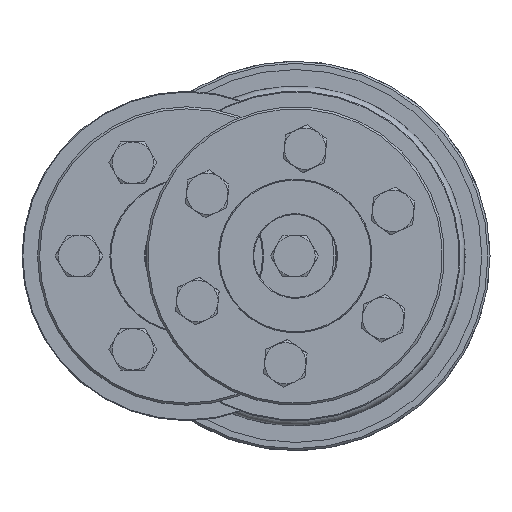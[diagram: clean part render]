
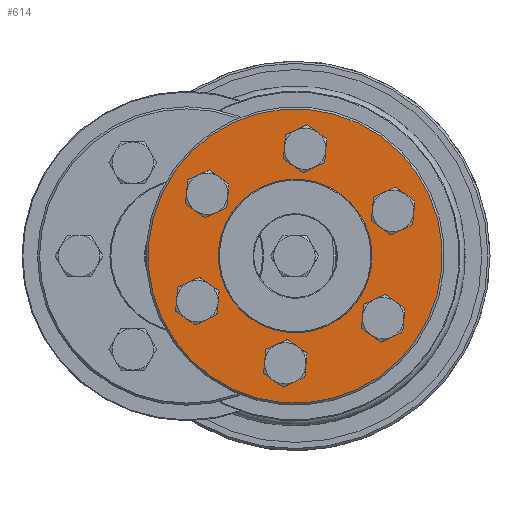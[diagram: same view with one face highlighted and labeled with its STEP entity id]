
A CAD part, left-side view. The second image highlights one B-rep face of the part: STEP entity #614.
In plain terms, the highlighted planar face has unit normal (-1, 0, 0).
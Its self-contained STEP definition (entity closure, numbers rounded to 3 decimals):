
#614 = ADVANCED_FACE( 'NONE', ( #993, #994, #995, #996, #997, #998, #999, #1000 ), #1001, .F. );
#993 = FACE_OUTER_BOUND( '', #1525, .T. );
#994 = FACE_BOUND( '', #1526, .T. );
#995 = FACE_BOUND( '', #1527, .T. );
#996 = FACE_BOUND( '', #1528, .T. );
#997 = FACE_BOUND( '', #1529, .T. );
#998 = FACE_BOUND( '', #1530, .T. );
#999 = FACE_BOUND( '', #1531, .T. );
#1000 = FACE_BOUND( '', #1532, .T. );
#1001 = PLANE( '', #1533 );
#1525 = EDGE_LOOP( '', ( #2202 ) );
#1526 = EDGE_LOOP( '', ( #2203 ) );
#1527 = EDGE_LOOP( '', ( #2204 ) );
#1528 = EDGE_LOOP( '', ( #2205 ) );
#1529 = EDGE_LOOP( '', ( #2206 ) );
#1530 = EDGE_LOOP( '', ( #2207 ) );
#1531 = EDGE_LOOP( '', ( #2208 ) );
#1532 = EDGE_LOOP( '', ( #2209 ) );
#1533 = AXIS2_PLACEMENT_3D( '', #2210, #2211, #2212 );
#2202 = ORIENTED_EDGE( '', *, *, #3100, .T. );
#2203 = ORIENTED_EDGE( '', *, *, #3101, .T. );
#2204 = ORIENTED_EDGE( '', *, *, #3102, .T. );
#2205 = ORIENTED_EDGE( '', *, *, #3103, .T. );
#2206 = ORIENTED_EDGE( '', *, *, #3096, .T. );
#2207 = ORIENTED_EDGE( '', *, *, #3094, .T. );
#2208 = ORIENTED_EDGE( '', *, *, #3104, .T. );
#2209 = ORIENTED_EDGE( '', *, *, #3099, .F. );
#2210 = CARTESIAN_POINT( '', ( 0., 18.5, 0. ) );
#2211 = DIRECTION( '', ( 1., 0., 0. ) );
#2212 = DIRECTION( '', ( 0., 1., 0. ) );
#3094 = EDGE_CURVE( 'NONE', #3459, #3459, #3460, .T. );
#3096 = EDGE_CURVE( 'NONE', #3463, #3463, #3464, .T. );
#3099 = EDGE_CURVE( 'NONE', #3469, #3469, #3470, .T. );
#3100 = EDGE_CURVE( 'NONE', #3471, #3471, #3472, .T. );
#3101 = EDGE_CURVE( 'NONE', #3473, #3473, #3474, .T. );
#3102 = EDGE_CURVE( 'NONE', #3475, #3475, #3476, .T. );
#3103 = EDGE_CURVE( 'NONE', #3477, #3477, #3478, .T. );
#3104 = EDGE_CURVE( 'NONE', #3479, #3479, #3480, .T. );
#3459 = VERTEX_POINT( '', #3969 );
#3460 = CIRCLE( '', #3970, 3.3 );
#3463 = VERTEX_POINT( '', #3973 );
#3464 = CIRCLE( '', #3974, 3.3 );
#3469 = VERTEX_POINT( '', #3979 );
#3470 = CIRCLE( '', #3980, 18.5 );
#3471 = VERTEX_POINT( '', #3981 );
#3472 = CIRCLE( '', #3982, 35.5 );
#3473 = VERTEX_POINT( '', #3983 );
#3474 = CIRCLE( '', #3984, 3.3 );
#3475 = VERTEX_POINT( '', #3985 );
#3476 = CIRCLE( '', #3986, 3.3 );
#3477 = VERTEX_POINT( '', #3987 );
#3478 = CIRCLE( '', #3988, 3.3 );
#3479 = VERTEX_POINT( '', #3989 );
#3480 = CIRCLE( '', #3990, 3.3 );
#3969 = CARTESIAN_POINT( '', ( 0., 13., -25.817 ) );
#3970 = AXIS2_PLACEMENT_3D( '', #5058, #5059, #5060 );
#3973 = CARTESIAN_POINT( '', ( 0., -13., -25.817 ) );
#3974 = AXIS2_PLACEMENT_3D( '', #5064, #5065, #5066 );
#3979 = CARTESIAN_POINT( '', ( 0., 0., 18.5 ) );
#3980 = AXIS2_PLACEMENT_3D( '', #5073, #5074, #5075 );
#3981 = CARTESIAN_POINT( '', ( 0., 0., -35.5 ) );
#3982 = AXIS2_PLACEMENT_3D( '', #5076, #5077, #5078 );
#3983 = CARTESIAN_POINT( '', ( 0., 13., 19.217 ) );
#3984 = AXIS2_PLACEMENT_3D( '', #5079, #5080, #5081 );
#3985 = CARTESIAN_POINT( '', ( 0., -13., 19.217 ) );
#3986 = AXIS2_PLACEMENT_3D( '', #5082, #5083, #5084 );
#3987 = CARTESIAN_POINT( '', ( 0., -26., -3.3 ) );
#3988 = AXIS2_PLACEMENT_3D( '', #5085, #5086, #5087 );
#3989 = CARTESIAN_POINT( '', ( 0., 26., -3.3 ) );
#3990 = AXIS2_PLACEMENT_3D( '', #5088, #5089, #5090 );
#5058 = CARTESIAN_POINT( '', ( 0., 13., -22.517 ) );
#5059 = DIRECTION( '', ( 1., 0., 0. ) );
#5060 = DIRECTION( '', ( 0., 0., -1. ) );
#5064 = CARTESIAN_POINT( '', ( 0., -13., -22.517 ) );
#5065 = DIRECTION( '', ( 1., 0., 0. ) );
#5066 = DIRECTION( '', ( 0., 0., -1. ) );
#5073 = CARTESIAN_POINT( '', ( 0., 0., 0. ) );
#5074 = DIRECTION( '', ( -1., 0., 0. ) );
#5075 = DIRECTION( '', ( 0., 0., 1. ) );
#5076 = CARTESIAN_POINT( '', ( 0., 0., 0. ) );
#5077 = DIRECTION( '', ( -1., 0., 0. ) );
#5078 = DIRECTION( '', ( 0., 0., -1. ) );
#5079 = CARTESIAN_POINT( '', ( 0., 13., 22.517 ) );
#5080 = DIRECTION( '', ( 1., 0., 0. ) );
#5081 = DIRECTION( '', ( 0., 0., -1. ) );
#5082 = CARTESIAN_POINT( '', ( 0., -13., 22.517 ) );
#5083 = DIRECTION( '', ( 1., 0., 0. ) );
#5084 = DIRECTION( '', ( 0., 0., -1. ) );
#5085 = CARTESIAN_POINT( '', ( 0., -26., 0. ) );
#5086 = DIRECTION( '', ( 1., 0., 0. ) );
#5087 = DIRECTION( '', ( 0., 0., -1. ) );
#5088 = CARTESIAN_POINT( '', ( 0., 26., 0. ) );
#5089 = DIRECTION( '', ( 1., 0., 0. ) );
#5090 = DIRECTION( '', ( 0., 0., -1. ) );
